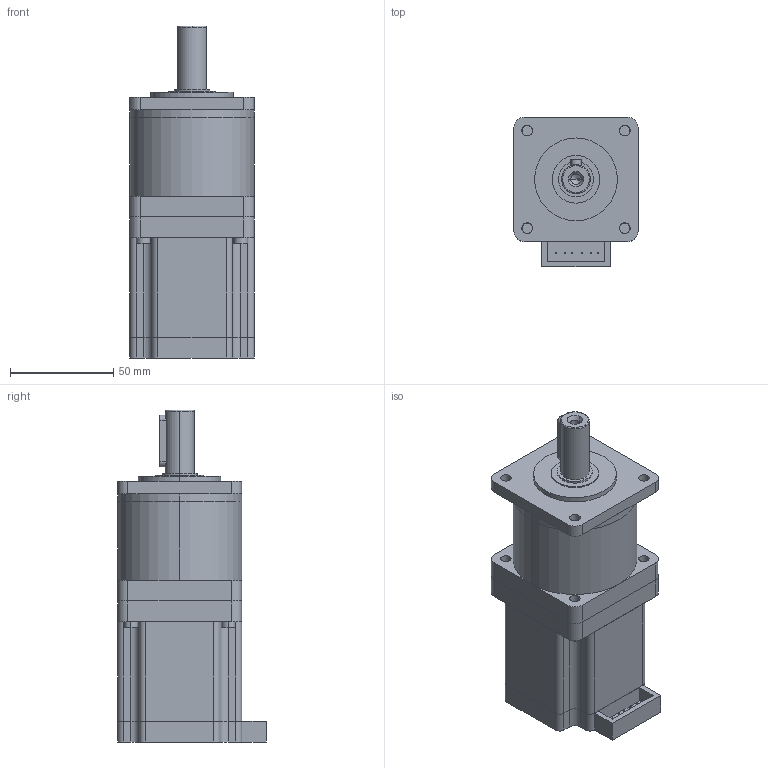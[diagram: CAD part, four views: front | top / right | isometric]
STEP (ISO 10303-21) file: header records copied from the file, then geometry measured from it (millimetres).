
FILE_DESCRIPTION (( 'STEP AP203' ), '1' );
FILE_NAME ('60PG040-D42-0468.STEP', '2019-10-25T08:28:06', ( 'China' ), ( 'Home' ), 'SwSTEP 2.0', 'SolidWorks 2016', '' );
FILE_SCHEMA (( 'CONFIG_CONTROL_DESIGN' ));
Length unit declared in the file: millimetre
Products named in the file (1): 60PG040-D42-0468
Bounding box: 60 x 72 x 160.5 mm (x, y, z)
Volume: 404105.6 mm3; surface area: 72104.9 mm2
Topology: 11 solids, 11 shells, 218 faces, 542 edges, 357 vertices
Faces by surface type: plane 132, cylinder 80, cone 4, torus 2
Entity records: 6639 total; most frequent: CARTESIAN_POINT 1177, DIRECTION 1142, ORIENTED_EDGE 1080, EDGE_CURVE 540, AXIS2_PLACEMENT_3D 386, LINE 370, VECTOR 370, VERTEX_POINT 357
